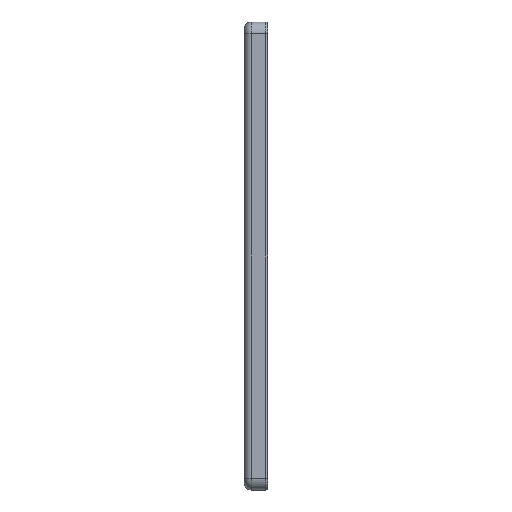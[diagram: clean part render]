
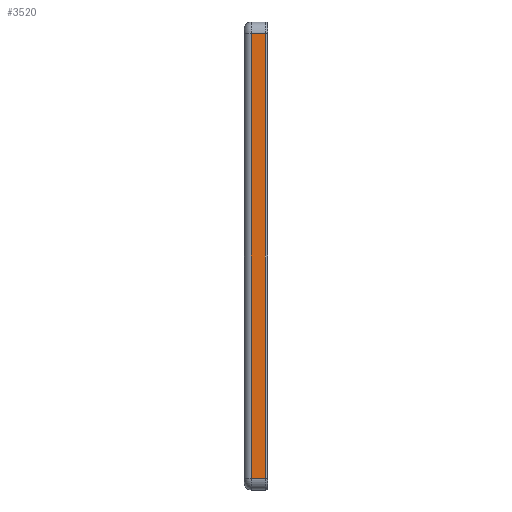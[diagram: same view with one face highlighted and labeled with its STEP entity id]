
A CAD part, left-side view. The second image highlights one B-rep face of the part: STEP entity #3520.
In plain terms, the highlighted planar face has unit normal (-1, 0, 0).
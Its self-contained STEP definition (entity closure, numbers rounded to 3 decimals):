
#106 = CARTESIAN_POINT ( 'NONE',  ( -100., 7., 95. ) ) ;
#107 = CARTESIAN_POINT ( 'NONE',  ( -100., 1., 95. ) ) ;
#108 = CARTESIAN_POINT ( 'NONE',  ( -100., 7., -95. ) ) ;
#111 = CARTESIAN_POINT ( 'NONE',  ( -100., 1., -95. ) ) ;
#209 = CARTESIAN_POINT ( 'NONE',  ( -100., 10., 100. ) ) ;
#211 = PLANE ( 'NONE',  #3152 ) ;
#213 = DIRECTION ( 'NONE',  ( 1., 0., 0. ) ) ;
#214 = DIRECTION ( 'NONE',  ( 0., 0., -1. ) ) ;
#451 = FACE_OUTER_BOUND ( 'NONE', #2781, .T. ) ;
#1079 = ORIENTED_EDGE ( 'NONE', *, *, #2699, .T. ) ;
#1086 = ORIENTED_EDGE ( 'NONE', *, *, #2705, .T. ) ;
#1087 = ORIENTED_EDGE ( 'NONE', *, *, #2694, .T. ) ;
#1116 = ORIENTED_EDGE ( 'NONE', *, *, #2707, .T. ) ;
#1239 = VERTEX_POINT ( 'NONE', #106 ) ;
#1240 = VERTEX_POINT ( 'NONE', #107 ) ;
#1241 = VERTEX_POINT ( 'NONE', #108 ) ;
#1244 = VERTEX_POINT ( 'NONE', #111 ) ;
#2340 = LINE ( 'NONE', #3395, #2352 ) ;
#2351 = LINE ( 'NONE', #3413, #2357 ) ;
#2352 = VECTOR ( 'NONE', #3408, 1000. ) ;
#2357 = VECTOR ( 'NONE', #3409, 1000. ) ;
#2363 = LINE ( 'NONE', #3417, #2367 ) ;
#2366 = LINE ( 'NONE', #2928, #2370 ) ;
#2367 = VECTOR ( 'NONE', #2927, 1000. ) ;
#2370 = VECTOR ( 'NONE', #2932, 1000. ) ;
#2694 = EDGE_CURVE ( 'NONE', #1241, #1244, #2340, .T. ) ;
#2699 = EDGE_CURVE ( 'NONE', #1239, #1241, #2351, .T. ) ;
#2705 = EDGE_CURVE ( 'NONE', #1244, #1240, #2363, .T. ) ;
#2707 = EDGE_CURVE ( 'NONE', #1240, #1239, #2366, .T. ) ;
#2781 = EDGE_LOOP ( 'NONE', ( #1087, #1086, #1116, #1079 ) ) ;
#2927 = DIRECTION ( 'NONE',  ( 0., 0., 1. ) ) ;
#2928 = CARTESIAN_POINT ( 'NONE',  ( -100., 10., 95. ) ) ;
#2932 = DIRECTION ( 'NONE',  ( 0., 1., 0. ) ) ;
#3152 = AXIS2_PLACEMENT_3D ( 'NONE', #209, #213, #214 ) ;
#3395 = CARTESIAN_POINT ( 'NONE',  ( -100., 10., -95. ) ) ;
#3408 = DIRECTION ( 'NONE',  ( 0., -1., 0. ) ) ;
#3409 = DIRECTION ( 'NONE',  ( 0., 0., -1. ) ) ;
#3413 = CARTESIAN_POINT ( 'NONE',  ( -100., 7., 100. ) ) ;
#3417 = CARTESIAN_POINT ( 'NONE',  ( -100., 1., 100. ) ) ;
#3520 = ADVANCED_FACE ( 'NONE', ( #451 ), #211, .F. ) ;
